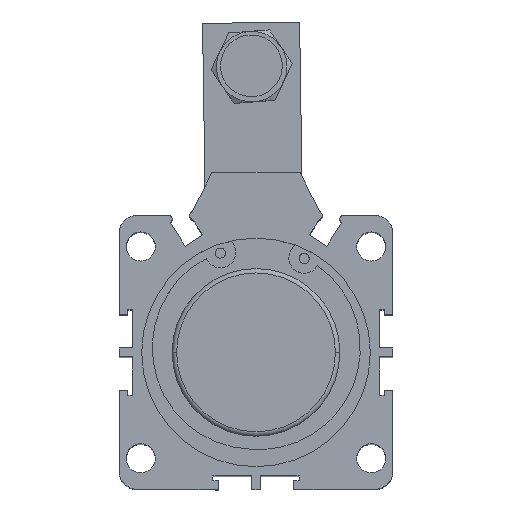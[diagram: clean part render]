
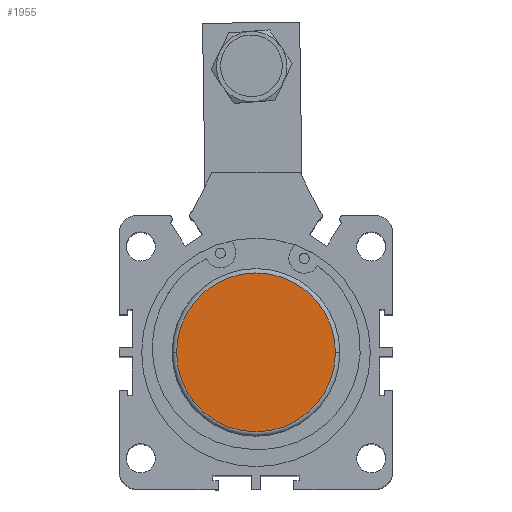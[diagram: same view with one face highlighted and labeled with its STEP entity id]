
A CAD part, top view. The second image highlights one B-rep face of the part: STEP entity #1955.
In plain terms, the highlighted planar face has unit normal (0, 0, 1) as drawn and (-1, 0, 0) by its records, which use the part's own axes.
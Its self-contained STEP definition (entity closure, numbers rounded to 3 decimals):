
#18 = VERTEX_POINT ( 'NONE', #481 ) ;
#481 = CARTESIAN_POINT ( 'NONE',  ( 0., 0., -18. ) ) ;
#616 = DIRECTION ( 'NONE',  ( -1., 0., 0. ) ) ;
#875 = ORIENTED_EDGE ( 'NONE', *, *, #2824, .T. ) ;
#1529 = CIRCLE ( 'NONE', #5016, 18. ) ;
#1955 = ADVANCED_FACE ( 'NONE', ( #5439 ), #4409, .F. ) ;
#2824 = EDGE_CURVE ( 'NONE', #10500, #18, #1529, .T. ) ;
#3002 = DIRECTION ( 'NONE',  ( -1., 0., 0. ) ) ;
#4409 = PLANE ( 'NONE',  #9777 ) ;
#4646 = DIRECTION ( 'NONE',  ( 1., 0., 0. ) ) ;
#5016 = AXIS2_PLACEMENT_3D ( 'NONE', #5181, #616, #6942 ) ;
#5138 = AXIS2_PLACEMENT_3D ( 'NONE', #7508, #3002, #6561 ) ;
#5181 = CARTESIAN_POINT ( 'NONE',  ( 0., 0., 0. ) ) ;
#5427 = EDGE_LOOP ( 'NONE', ( #875, #11699 ) ) ;
#5439 = FACE_OUTER_BOUND ( 'NONE', #5427, .T. ) ;
#6382 = DIRECTION ( 'NONE',  ( 0., 0., -1. ) ) ;
#6561 = DIRECTION ( 'NONE',  ( 0., 0., 1. ) ) ;
#6942 = DIRECTION ( 'NONE',  ( 0., 0., 1. ) ) ;
#7410 = EDGE_CURVE ( 'NONE', #18, #10500, #9015, .T. ) ;
#7508 = CARTESIAN_POINT ( 'NONE',  ( 0., 0., 0. ) ) ;
#9015 = CIRCLE ( 'NONE', #5138, 18. ) ;
#9777 = AXIS2_PLACEMENT_3D ( 'NONE', #11757, #4646, #6382 ) ;
#10500 = VERTEX_POINT ( 'NONE', #11354 ) ;
#11354 = CARTESIAN_POINT ( 'NONE',  ( 0., 0., 18. ) ) ;
#11699 = ORIENTED_EDGE ( 'NONE', *, *, #7410, .T. ) ;
#11757 = CARTESIAN_POINT ( 'NONE',  ( 0., 0., 0. ) ) ;
